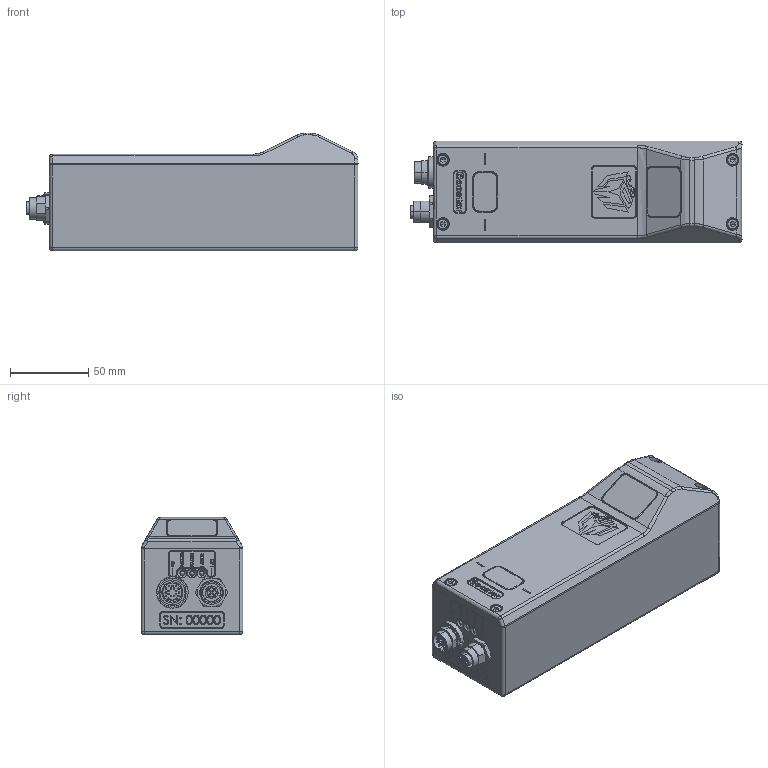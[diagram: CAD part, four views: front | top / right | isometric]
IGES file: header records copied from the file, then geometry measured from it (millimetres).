
Start section: SolidWorks IGES file using analytic representation for surfaces
Global section: file name: C:\_LMI\Sensors\dev\RD\Gocator2\Mechanical\3068X_MKT_SENSOR_Gocator_20X0\30685-1.6_MKT_SENSOR_Gocator2040.IGS; native system: SolidWorks 2009; preprocessor: SolidWorks 2009; author: Joep; date: 100706.143543; units: millimetre
Bounding box: 212 x 65 x 75 mm (x, y, z)
Surface area: 100044.5 mm2 (no closed solid volume)
Topology: 0 solids, 0 shells, 1357 faces, 19313 edges, 22447 vertices
Faces by surface type: bspline 885, revolution 472
